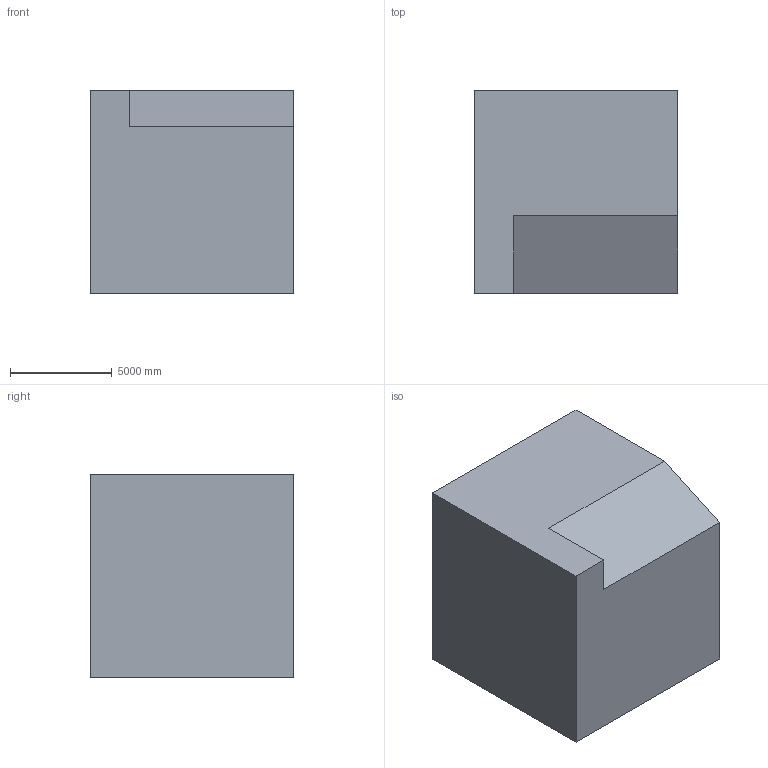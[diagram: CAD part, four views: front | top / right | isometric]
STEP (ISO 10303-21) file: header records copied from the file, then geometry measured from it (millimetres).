
FILE_DESCRIPTION (( 'STEP AP203' ), '1' );
FILE_NAME ('1167.STEP', '2022-08-18T13:01:28', ( 'user' ), ( '' ), 'SwSTEP 2.0', 'SolidWorks 2021', '' );
FILE_SCHEMA (( 'CONFIG_CONTROL_DESIGN' ));
Length unit declared in the file: centimetre
Products named in the file (1): 1167
Bounding box: 10000 x 10000 x 10000 mm (x, y, z)
Volume: 940866472356.8 mm3; surface area: 624237702.9 mm2
Topology: 1 solids, 1 shells, 11 faces, 24 edges, 16 vertices
Faces by surface type: plane 9, cylinder 2
Entity records: 379 total; most frequent: DIRECTION 52, CARTESIAN_POINT 52, ORIENTED_EDGE 48, EDGE_CURVE 24, LINE 20, VECTOR 20, AXIS2_PLACEMENT_3D 16, VERTEX_POINT 16
